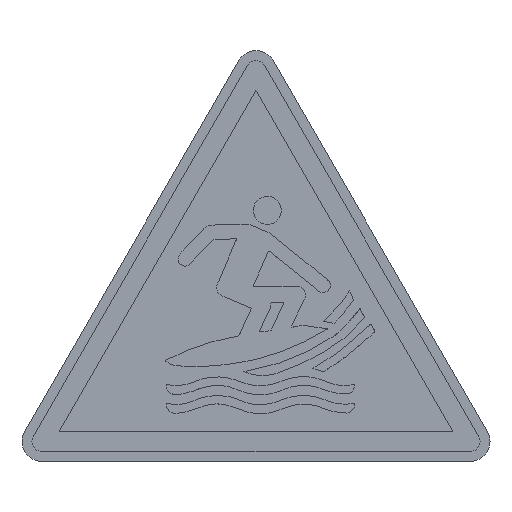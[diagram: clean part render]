
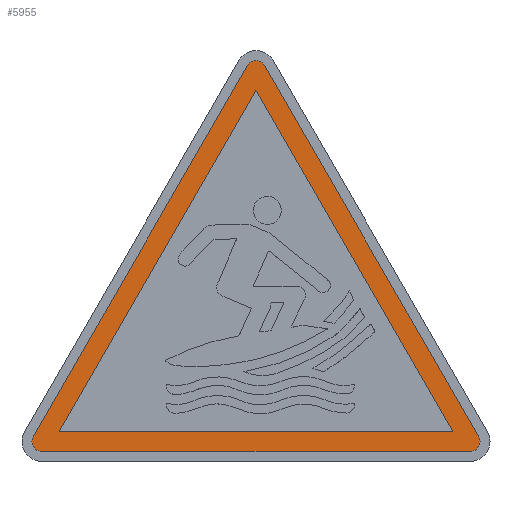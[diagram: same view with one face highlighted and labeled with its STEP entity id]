
A CAD part, top view. The second image highlights one B-rep face of the part: STEP entity #5955.
In plain terms, the highlighted planar face has unit normal (0, 0, 1).
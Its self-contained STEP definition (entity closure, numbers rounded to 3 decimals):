
#21 = VECTOR ( 'NONE', #3104, 1000. ) ;
#262 = CARTESIAN_POINT ( 'NONE',  ( 0., 39.301, 0.22 ) ) ;
#302 = CIRCLE ( 'NONE', #927, 1. ) ;
#705 = FACE_OUTER_BOUND ( 'NONE', #8163, .T. ) ;
#774 = ORIENTED_EDGE ( 'NONE', *, *, #11578, .T. ) ;
#927 = AXIS2_PLACEMENT_3D ( 'NONE', #11483, #2639, #10517 ) ;
#1030 = LINE ( 'NONE', #3966, #4126 ) ;
#1094 = DIRECTION ( 'NONE',  ( 1., 0., 0. ) ) ;
#1097 = VECTOR ( 'NONE', #5884, 1000. ) ;
#1513 = VERTEX_POINT ( 'NONE', #8556 ) ;
#1644 = DIRECTION ( 'NONE',  ( 1., 0., 0. ) ) ;
#1777 = ORIENTED_EDGE ( 'NONE', *, *, #8017, .T. ) ;
#2010 = DIRECTION ( 'NONE',  ( 0., 0., 1. ) ) ;
#2051 = CARTESIAN_POINT ( 'NONE',  ( -0.866, 39.801, 0.22 ) ) ;
#2055 = VECTOR ( 'NONE', #1644, 1000. ) ;
#2060 = ORIENTED_EDGE ( 'NONE', *, *, #5937, .T. ) ;
#2138 = CARTESIAN_POINT ( 'NONE',  ( 0.866, 39.801, 0.22 ) ) ;
#2164 = EDGE_CURVE ( 'NONE', #4998, #8198, #3314, .T. ) ;
#2225 = VERTEX_POINT ( 'NONE', #7126 ) ;
#2287 = VERTEX_POINT ( 'NONE', #10974 ) ;
#2459 = CARTESIAN_POINT ( 'NONE',  ( 0., 37.301, 0.22 ) ) ;
#2595 = EDGE_LOOP ( 'NONE', ( #10760, #12365, #8869 ) ) ;
#2639 = DIRECTION ( 'NONE',  ( 0., 0., 1. ) ) ;
#2712 = VECTOR ( 'NONE', #10513, 1000. ) ;
#3104 = DIRECTION ( 'NONE',  ( -0.5, -0.866, 0. ) ) ;
#3145 = DIRECTION ( 'NONE',  ( 1., 0., 0. ) ) ;
#3314 = LINE ( 'NONE', #7283, #6562 ) ;
#3680 = LINE ( 'NONE', #5543, #2055 ) ;
#3786 = AXIS2_PLACEMENT_3D ( 'NONE', #262, #2010, #3145 ) ;
#3874 = LINE ( 'NONE', #11901, #1097 ) ;
#3966 = CARTESIAN_POINT ( 'NONE',  ( 22.402, 2.5, 0.22 ) ) ;
#4126 = VECTOR ( 'NONE', #11861, 1000. ) ;
#4536 = VERTEX_POINT ( 'NONE', #11683 ) ;
#4703 = LINE ( 'NONE', #9424, #2712 ) ;
#4855 = FACE_BOUND ( 'NONE', #2595, .T. ) ;
#4877 = VERTEX_POINT ( 'NONE', #2051 ) ;
#4969 = CARTESIAN_POINT ( 'NONE',  ( 0., 39.301, 0.22 ) ) ;
#4998 = VERTEX_POINT ( 'NONE', #10321 ) ;
#5023 = CARTESIAN_POINT ( 'NONE',  ( 19.804, 3., 0.22 ) ) ;
#5146 = EDGE_CURVE ( 'NONE', #8198, #1513, #3874, .T. ) ;
#5475 = PLANE ( 'NONE',  #3786 ) ;
#5480 = DIRECTION ( 'NONE',  ( 0., 0., 1. ) ) ;
#5543 = CARTESIAN_POINT ( 'NONE',  ( -21.536, 1., 0.22 ) ) ;
#5884 = DIRECTION ( 'NONE',  ( -0.5, 0.866, 0. ) ) ;
#5937 = EDGE_CURVE ( 'NONE', #4536, #7015, #302, .T. ) ;
#5955 = ADVANCED_FACE ( 'NONE', ( #705, #4855 ), #5475, .T. ) ;
#6322 = DIRECTION ( 'NONE',  ( 1., 0., 0. ) ) ;
#6562 = VECTOR ( 'NONE', #6322, 1000. ) ;
#7015 = VERTEX_POINT ( 'NONE', #12574 ) ;
#7118 = EDGE_CURVE ( 'NONE', #10942, #4877, #12692, .T. ) ;
#7126 = CARTESIAN_POINT ( 'NONE',  ( 21.536, 1., 0.22 ) ) ;
#7173 = AXIS2_PLACEMENT_3D ( 'NONE', #4969, #8900, #1094 ) ;
#7204 = ORIENTED_EDGE ( 'NONE', *, *, #7701, .T. ) ;
#7283 = CARTESIAN_POINT ( 'NONE',  ( -19.804, 3., 0.22 ) ) ;
#7417 = CARTESIAN_POINT ( 'NONE',  ( 21.536, 2., 0.22 ) ) ;
#7604 = ORIENTED_EDGE ( 'NONE', *, *, #8155, .T. ) ;
#7701 = EDGE_CURVE ( 'NONE', #2225, #2287, #8237, .T. ) ;
#7857 = EDGE_CURVE ( 'NONE', #1513, #4998, #8294, .T. ) ;
#8017 = EDGE_CURVE ( 'NONE', #2287, #10942, #1030, .T. ) ;
#8155 = EDGE_CURVE ( 'NONE', #4877, #4536, #4703, .T. ) ;
#8163 = EDGE_LOOP ( 'NONE', ( #10546, #7604, #2060, #774, #7204, #1777 ) ) ;
#8198 = VERTEX_POINT ( 'NONE', #5023 ) ;
#8237 = CIRCLE ( 'NONE', #11502, 1. ) ;
#8294 = LINE ( 'NONE', #2459, #21 ) ;
#8556 = CARTESIAN_POINT ( 'NONE',  ( 0., 37.301, 0.22 ) ) ;
#8573 = DIRECTION ( 'NONE',  ( 1., 0., 0. ) ) ;
#8869 = ORIENTED_EDGE ( 'NONE', *, *, #5146, .F. ) ;
#8900 = DIRECTION ( 'NONE',  ( 0., 0., 1. ) ) ;
#9424 = CARTESIAN_POINT ( 'NONE',  ( -0.866, 39.801, 0.22 ) ) ;
#10321 = CARTESIAN_POINT ( 'NONE',  ( -19.804, 3., 0.22 ) ) ;
#10513 = DIRECTION ( 'NONE',  ( -0.5, -0.866, 0. ) ) ;
#10517 = DIRECTION ( 'NONE',  ( 1., 0., 0. ) ) ;
#10546 = ORIENTED_EDGE ( 'NONE', *, *, #7118, .T. ) ;
#10760 = ORIENTED_EDGE ( 'NONE', *, *, #2164, .F. ) ;
#10942 = VERTEX_POINT ( 'NONE', #2138 ) ;
#10974 = CARTESIAN_POINT ( 'NONE',  ( 22.402, 2.5, 0.22 ) ) ;
#11483 = CARTESIAN_POINT ( 'NONE',  ( -21.536, 2., 0.22 ) ) ;
#11502 = AXIS2_PLACEMENT_3D ( 'NONE', #7417, #5480, #8573 ) ;
#11578 = EDGE_CURVE ( 'NONE', #7015, #2225, #3680, .T. ) ;
#11683 = CARTESIAN_POINT ( 'NONE',  ( -22.402, 2.5, 0.22 ) ) ;
#11861 = DIRECTION ( 'NONE',  ( -0.5, 0.866, 0. ) ) ;
#11901 = CARTESIAN_POINT ( 'NONE',  ( 19.804, 3., 0.22 ) ) ;
#12365 = ORIENTED_EDGE ( 'NONE', *, *, #7857, .F. ) ;
#12574 = CARTESIAN_POINT ( 'NONE',  ( -21.536, 1., 0.22 ) ) ;
#12692 = CIRCLE ( 'NONE', #7173, 1. ) ;
